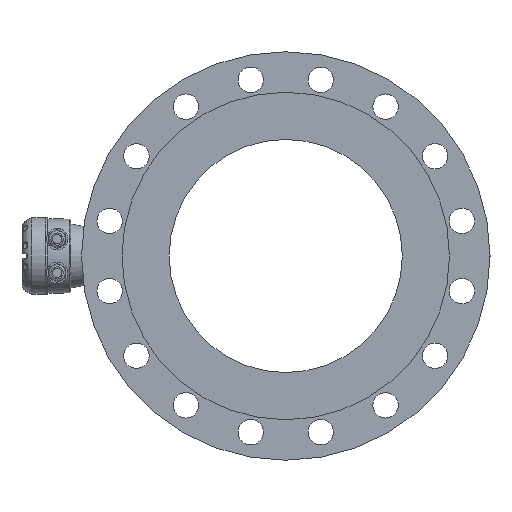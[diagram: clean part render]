
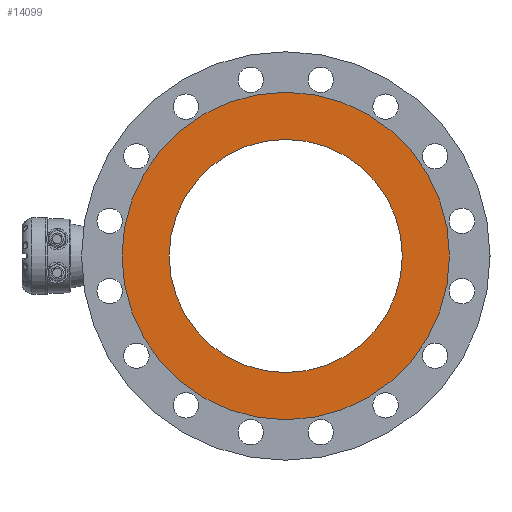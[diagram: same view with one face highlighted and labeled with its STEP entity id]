
A CAD part, left-side view. The second image highlights one B-rep face of the part: STEP entity #14099.
In plain terms, the highlighted planar face has unit normal (-1, 0, 0).
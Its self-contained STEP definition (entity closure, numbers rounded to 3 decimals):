
#1949 = PLANE ( 'NONE',  #13670 ) ;
#2001 = CARTESIAN_POINT ( 'NONE',  ( -344.805, -109.517, -10.543 ) ) ;
#2010 = DIRECTION ( 'NONE',  ( -1., 0., 0. ) ) ;
#2011 = DIRECTION ( 'NONE',  ( 0., 0., 1. ) ) ;
#4817 = VERTEX_POINT ( 'NONE', #4818 ) ;
#4818 = CARTESIAN_POINT ( 'NONE',  ( -344.805, -275.017, -176.043 ) ) ;
#4837 = VERTEX_POINT ( 'NONE', #4838 ) ;
#4838 = CARTESIAN_POINT ( 'NONE',  ( -344.805, -275.017, 221.957 ) ) ;
#5598 = EDGE_CURVE ( 'NONE', #4817, #4817, #8720, .T. ) ;
#5832 = EDGE_CURVE ( 'NONE', #4837, #4837, #8730, .T. ) ;
#7734 = CARTESIAN_POINT ( 'NONE',  ( -344.805, -275.017, -10.543 ) ) ;
#7741 = DIRECTION ( 'NONE',  ( 1., 0., 0. ) ) ;
#7742 = DIRECTION ( 'NONE',  ( 0., 0., -1. ) ) ;
#7764 = CARTESIAN_POINT ( 'NONE',  ( -344.805, -275.017, -10.543 ) ) ;
#7771 = DIRECTION ( 'NONE',  ( -1., 0., 0. ) ) ;
#7772 = DIRECTION ( 'NONE',  ( 0., 0., 1. ) ) ;
#8720 = CIRCLE ( 'NONE', #13426, 165.5 ) ;
#8730 = CIRCLE ( 'NONE', #13436, 232.5 ) ;
#9534 = FACE_OUTER_BOUND ( 'NONE', #11276, .T. ) ;
#9535 = FACE_BOUND ( 'NONE', #11357, .T. ) ;
#11276 = EDGE_LOOP ( 'NONE', ( #11668 ) ) ;
#11357 = EDGE_LOOP ( 'NONE', ( #11669 ) ) ;
#11668 = ORIENTED_EDGE ( 'NONE', *, *, #5832, .T. ) ;
#11669 = ORIENTED_EDGE ( 'NONE', *, *, #5598, .T. ) ;
#13426 = AXIS2_PLACEMENT_3D ( 'NONE', #7734, #7741, #7742 ) ;
#13436 = AXIS2_PLACEMENT_3D ( 'NONE', #7764, #7771, #7772 ) ;
#13670 = AXIS2_PLACEMENT_3D ( 'NONE', #2001, #2010, #2011 ) ;
#14099 = ADVANCED_FACE ( 'NONE', ( #9535, #9534 ), #1949, .T. ) ;
